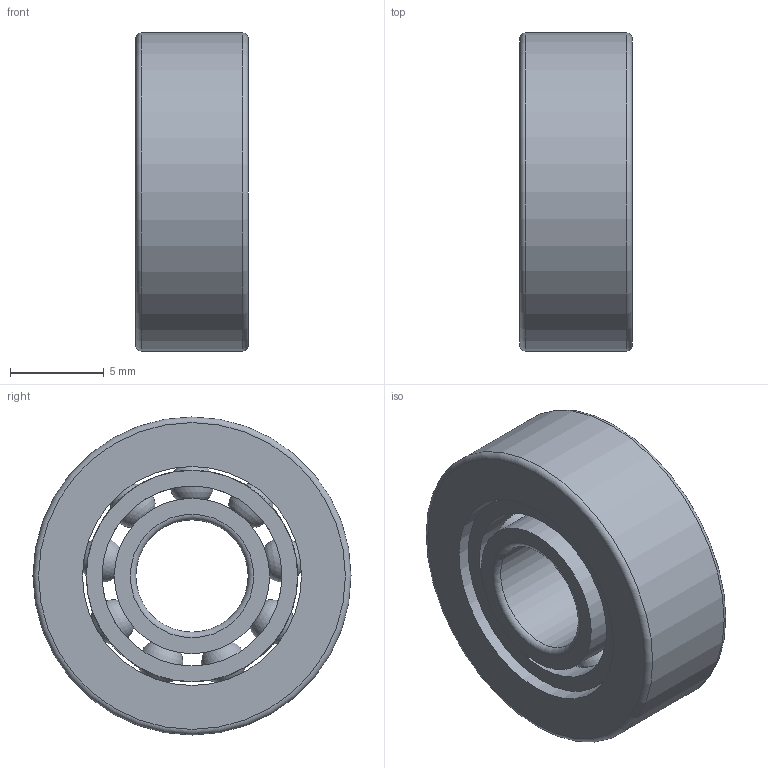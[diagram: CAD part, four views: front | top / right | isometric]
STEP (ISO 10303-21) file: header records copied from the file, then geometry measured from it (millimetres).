
FILE_DESCRIPTION(/* description */ (''),/* implementation_level */ '2;1');
FILE_NAME(/* name */ 'SM_606_TA.step',/* time_stamp */ '2013-03-11T11:33:29+01:00',/* author */ ('Marian'),/* organization */ ('GMN'),/* preprocessor_version */ 'ST-DEVELOPER v11',/* originating_system */ 'SIEMENS UGS NX 6.0',/* authorisation */ '');
FILE_SCHEMA (('CONFIG_CONTROL_DESIGN'));
Length unit declared in the file: millimetre
Products named in the file (1): SM_606_TA
Bounding box: 6 x 17 x 17 mm (x, y, z)
Volume: 977.7 mm3; surface area: 1591.4 mm2
Topology: 12 solids, 12 shells, 38 faces, 88 edges, 56 vertices
Faces by surface type: cylinder 16, sphere 9, torus 6, plane 6, cone 1
Full cylindrical faces by diameter (mm): 2.581 x9, 6 x1, 8.3 x2, 9.621 x1, 11.3 x1, 11.7 x1, 17 x1
Entity records: 1884 total; most frequent: CARTESIAN_POINT 1150, DIRECTION 118, FACE_BOUND 85, EDGE_LOOP 76, ORIENTED_EDGE 76, AXIS2_PLACEMENT_3D 59, VERTEX_POINT 47, EDGE_CURVE 38
